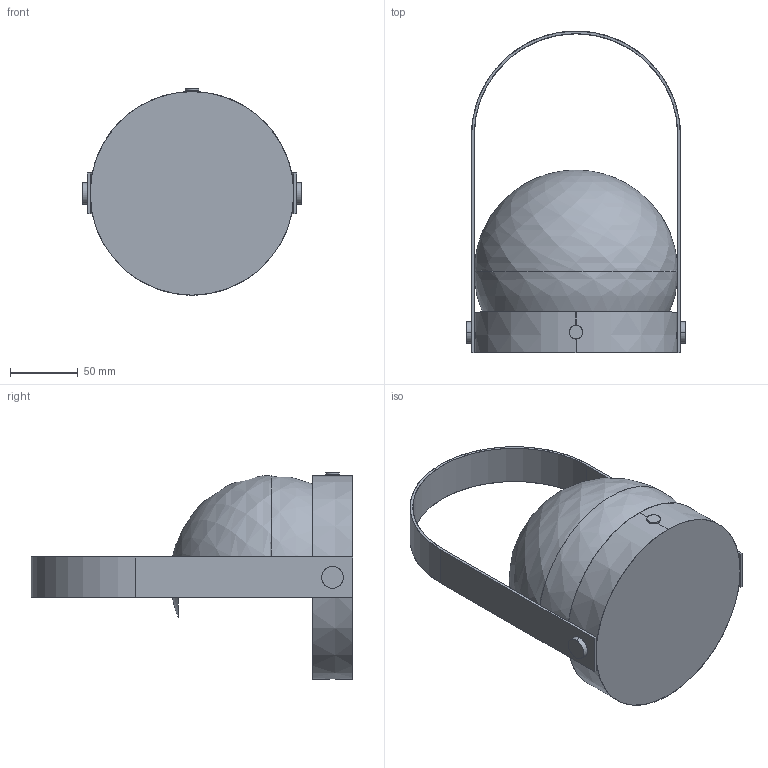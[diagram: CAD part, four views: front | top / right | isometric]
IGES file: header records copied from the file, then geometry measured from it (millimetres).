
Start section: SolidWorks IGES file using analytic representation for surfaces
Global section: file name: F:\李明祥\3D\12月\12月待上传\Carrie Built-in Battery Table Lamp.IGS; native system: SolidWorks 2022; preprocessor: SolidWorks 2022; author: MyPC; date: 231221.174755; units: millimetre
Bounding box: 162 x 237 x 152 mm (x, y, z)
Surface area: 147906.8 mm2 (no closed solid volume)
Topology: 0 solids, 0 shells, 37 faces, 762 edges, 761 vertices
Faces by surface type: bspline 23, revolution 14
